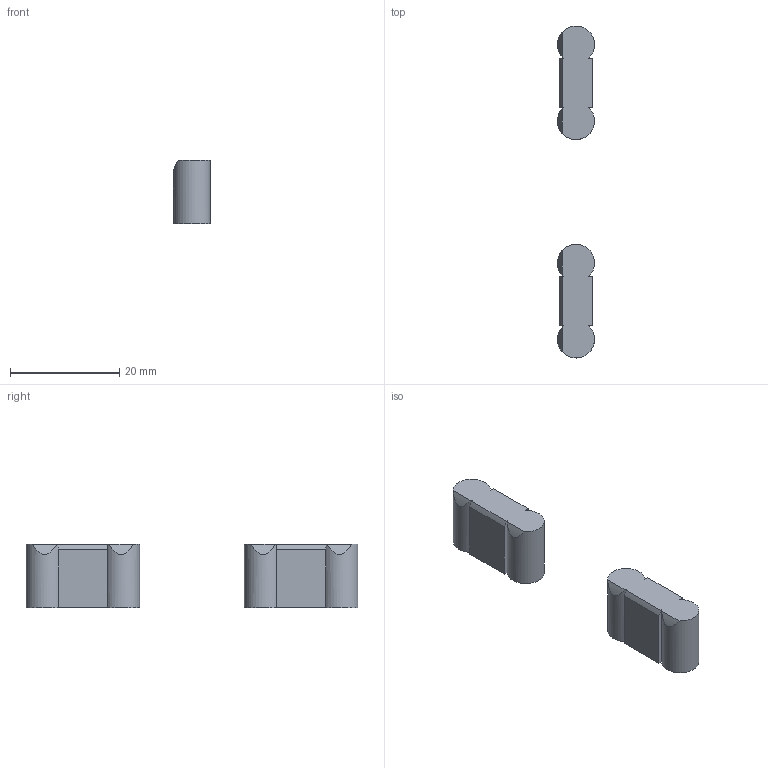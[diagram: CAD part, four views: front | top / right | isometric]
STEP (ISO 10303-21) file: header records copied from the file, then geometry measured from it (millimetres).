
FILE_DESCRIPTION(('Open CASCADE Model'),'2;1');
FILE_NAME('Open CASCADE Shape Model','2026-09-15T13:41:17',('Author'),( 'Open CASCADE'),'Open CASCADE STEP processor 7.7','Open CASCADE 7.7' ,'Unknown');
FILE_SCHEMA(('AUTOMOTIVE_DESIGN { 1 0 10303 214 1 1 1 1 }'));
Length unit declared in the file: millimetre
Products named in the file (3): ASSEMBLY; SOLID
Assembly tree (2 placements, depth 2):
  ASSEMBLY
    SOLID
    SOLID
Bounding box: 6.8 x 60.8 x 11.6 mm (x, y, z)
Volume: 2825.6 mm3; surface area: 1717.4 mm2
Topology: 2 solids, 2 shells, 26 faces, 66 edges, 44 vertices
Faces by surface type: plane 16, cylinder 10
Entity records: 2412 total; most frequent: CARTESIAN_POINT 1095, DIRECTION 224, ORIENTED_EDGE 132, PCURVE 132, DEFINITIONAL_REPRESENTATION 132, LINE 122, VECTOR 122, EDGE_CURVE 66
